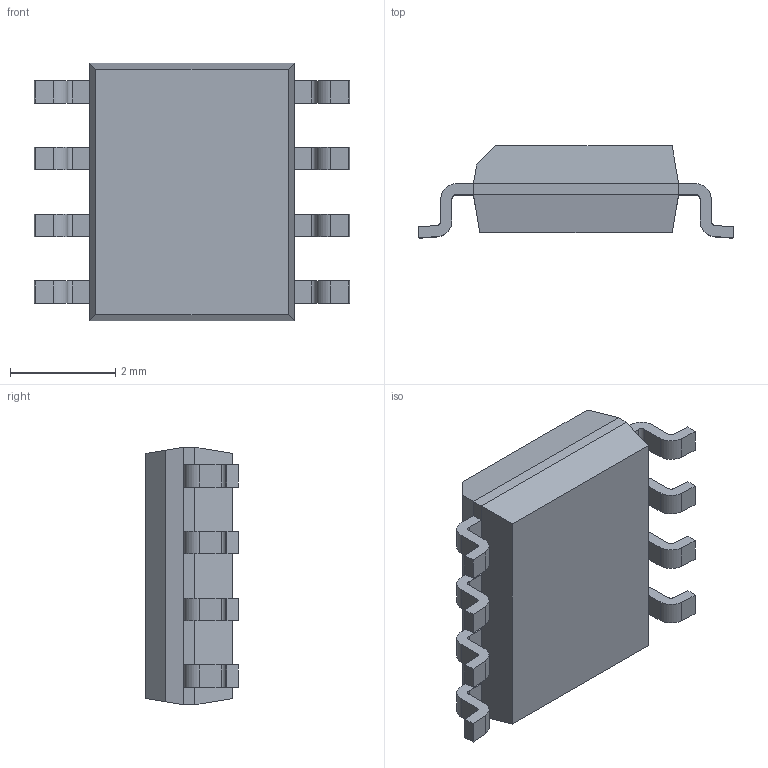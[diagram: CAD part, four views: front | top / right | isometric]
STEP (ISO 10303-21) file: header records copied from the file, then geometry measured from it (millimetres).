
FILE_DESCRIPTION (( 'STEP AP214' ), '1' );
FILE_NAME ('ICE2QS03G.STEP', '2023-03-23T03:58:35', ( '' ), ( '' ), 'SwSTEP 2.0', 'SolidWorks 2021', '' );
FILE_SCHEMA (( 'AUTOMOTIVE_DESIGN' ));
Length unit declared in the file: millimetre
Products named in the file (1): ICE2QS03G
Bounding box: 6 x 1.75 x 4.9 mm (x, y, z)
Volume: 31 mm3; surface area: 80.9 mm2
Topology: 10 solids, 10 shells, 134 faces, 331 edges, 218 vertices
Faces by surface type: plane 98, cylinder 36
Entity records: 4058 total; most frequent: CARTESIAN_POINT 684, DIRECTION 673, ORIENTED_EDGE 662, EDGE_CURVE 331, LINE 259, VECTOR 259, VERTEX_POINT 218, AXIS2_PLACEMENT_3D 207
